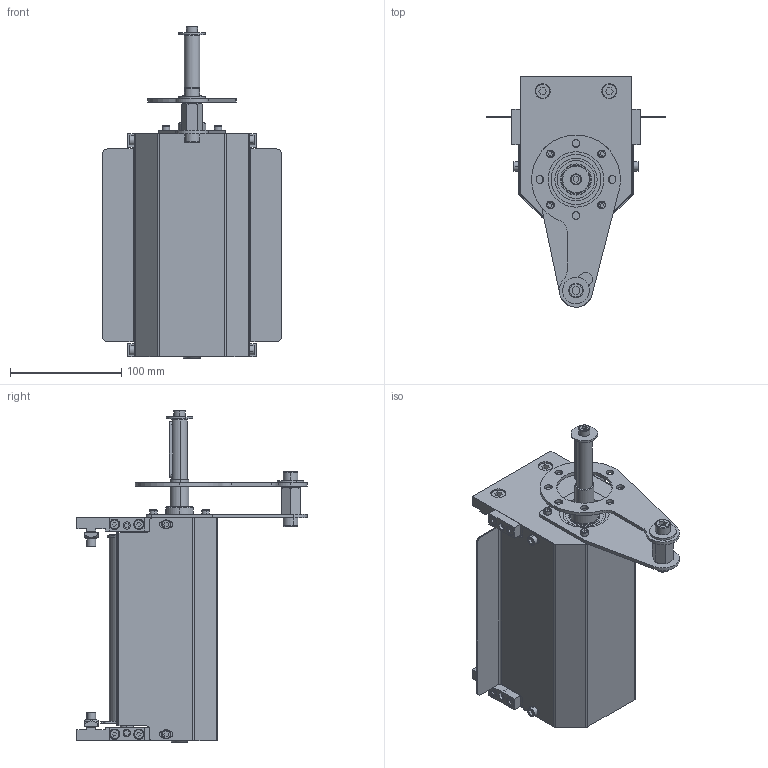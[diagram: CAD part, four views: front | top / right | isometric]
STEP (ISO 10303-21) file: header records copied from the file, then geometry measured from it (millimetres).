
FILE_DESCRIPTION (( 'STEP AP203' ), '1' );
FILE_NAME ('084.030.KC.30.150.STEP', '2019-07-29T10:01:34', ( '' ), ( '' ), 'SwSTEP 2.0', 'SolidWorks 2018', '' );
FILE_SCHEMA (( 'CONFIG_CONTROL_DESIGN' ));
Length unit declared in the file: millimetre
Products named in the file (25): VITI TCEI UNI 5931_M4x10 UNI 5931; 084.031.039; 084.802.036; 084.031.037; 084.302.000 DADI ALUSIC 13x13-1_084.302.004; 084.801.022; 084.802.027; 084.030.KC.30.150; 084.802.017_084.802.017; ANELLI ELASTICI PER ESTERNI UNI 7435-75_12 UNI 7435; 084.301.000 VITI ALUSIC_084.301.003; 084.031.038; VITI TSEI UNI 5933_M4x16 UNI 5933; VITI TCEI UNI 5931_M5x40 UNI 5931; 084.031.040; RONDELLE FASCIA LARGA UNI 6593_8.4x24 UNI 6593; 084.807.005; VITI TCEI UNI 5931_M5x10 UNI 5931; 356.095.005-4_Default<A macchina>; 084.802.016_084.802.016; 356.095.003; VITI TCEI UNI 5931_M8x16 UNI 5931; VITI TCEI UNI 5931_M6x12 UNI 5931; RONDELLE FASCIA LARGA UNI 6593_6.4x24 UNI 6593; CHIAVETTE_A 5x5x50 UNI 6604-69
Assembly tree (59 placements, depth 2):
  084.030.KC.30.150
    084.031.037
    084.031.038  x2
    084.031.039  x2
    084.031.040
    084.807.005
    084.802.036  x4
    356.095.005-4_Default<A macchina>  x2
    084.802.017_084.802.017
    084.802.016_084.802.016
    356.095.003  x4
    084.801.022
    084.802.027
    CHIAVETTE_A 5x5x50 UNI 6604-69
    ANELLI ELASTICI PER ESTERNI UNI 7435-75_12 UNI 7435  x4
    RONDELLE FASCIA LARGA UNI 6593_8.4x24 UNI 6593
    VITI TCEI UNI 5931_M8x16 UNI 5931  x2
    VITI TCEI UNI 5931_M5x40 UNI 5931  x4
    RONDELLE FASCIA LARGA UNI 6593_6.4x24 UNI 6593
    VITI TCEI UNI 5931_M6x12 UNI 5931
    VITI TSEI UNI 5933_M4x16 UNI 5933  x8
    VITI TCEI UNI 5931_M5x10 UNI 5931  x4
    VITI TCEI UNI 5931_M4x10 UNI 5931  x4
    084.301.000 VITI ALUSIC_084.301.003  x4
    084.302.000 DADI ALUSIC 13x13-1_084.302.004  x4
Bounding box: 161 x 207.5 x 299 mm (x, y, z)
Volume: 880354.9 mm3; surface area: 397054.9 mm2
Topology: 65 solids, 71 shells, 1461 faces, 3392 edges, 2129 vertices
Faces by surface type: plane 572, cylinder 561, torus 154, cone 150, bspline 16, sphere 8
Entity records: 23650 total; most frequent: CARTESIAN_POINT 4164, DIRECTION 3613, ORIENTED_EDGE 3070, EDGE_CURVE 1535, AXIS2_PLACEMENT_3D 1440, VERTEX_POINT 973, EDGE_LOOP 792, VECTOR 733
